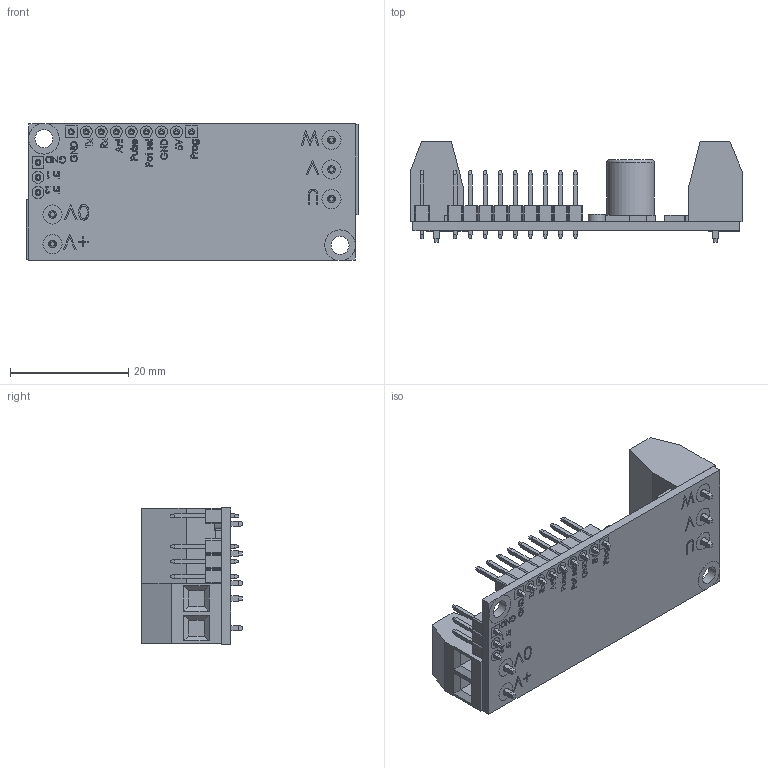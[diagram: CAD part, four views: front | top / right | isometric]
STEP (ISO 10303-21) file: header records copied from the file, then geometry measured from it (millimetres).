
FILE_DESCRIPTION (( 'STEP AP214' ), '1' );
FILE_NAME ('P-2151-A EQi-UART REV 1.STEP', '2023-01-19T10:05:50', ( '' ), ( '' ), 'SwSTEP 2.0', 'SolidWorks 2021', '' );
FILE_SCHEMA (( 'AUTOMOTIVE_DESIGN' ));
Length unit declared in the file: millimetre
Products named in the file (1): P-2151-A EQi-UART REV 1
Bounding box: 56.05 x 17 x 23 mm (x, y, z)
Volume: 5457.3 mm3; surface area: 5848.1 mm2
Topology: 1 solids, 1 shells, 1257 faces, 3172 edges, 2079 vertices
Faces by surface type: plane 972, bspline 217, cylinder 67, torus 1
Full cylindrical faces by diameter (mm): 1 x12, 1.3 x5, 2 x18, 2.9 x1, 3.05 x2, 3.25 x10, 3.4 x5, 3.9 x5, 8 x1
Entity records: 54443 total; most frequent: CARTESIAN_POINT 19292, ORIENTED_EDGE 6154, DIRECTION 4875, EDGE_CURVE 3077, LINE 2493, VECTOR 2493, VERTEX_POINT 2044, EDGE_LOOP 1511
